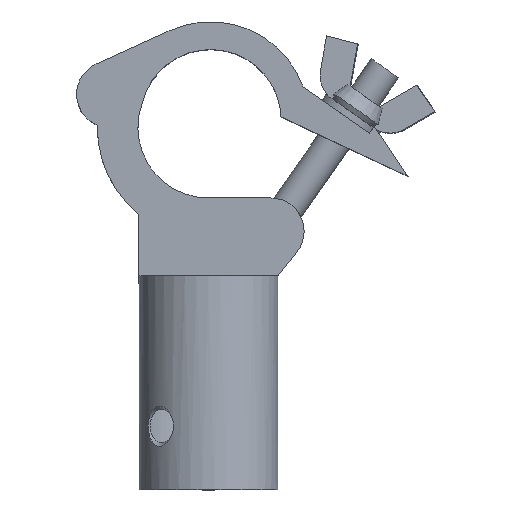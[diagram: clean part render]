
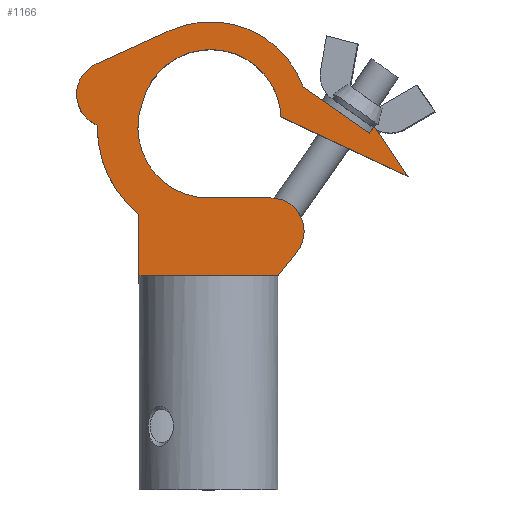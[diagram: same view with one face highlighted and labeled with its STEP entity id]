
A CAD part, top view. The second image highlights one B-rep face of the part: STEP entity #1166.
In plain terms, the highlighted planar face has unit normal (0, 0, 1).
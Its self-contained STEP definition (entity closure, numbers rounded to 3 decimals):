
#50=LINE('',#1706,#151);
#53=LINE('',#1711,#154);
#75=LINE('',#1778,#176);
#81=LINE('',#1789,#182);
#120=LINE('',#1979,#221);
#125=LINE('',#1990,#226);
#128=LINE('',#1994,#229);
#139=LINE('',#2031,#240);
#141=LINE('',#2035,#242);
#144=LINE('',#2045,#245);
#151=VECTOR('',#1326,10.);
#154=VECTOR('',#1331,10.);
#176=VECTOR('',#1389,10.);
#182=VECTOR('',#1397,10.);
#221=VECTOR('',#1514,10.);
#226=VECTOR('',#1523,10.);
#229=VECTOR('',#1528,10.);
#240=VECTOR('',#1571,10.);
#242=VECTOR('',#1575,10.);
#245=VECTOR('',#1588,10.);
#315=FACE_OUTER_BOUND('',#377,.T.);
#377=EDGE_LOOP('',(#984,#985,#986,#987,#988,#989,#990,#991,#992,#993,#994,
#995,#996,#997,#998,#999,#1000));
#412=CIRCLE('',#1260,25.4);
#413=CIRCLE('',#1270,35.4);
#420=CIRCLE('',#1279,12.);
#421=CIRCLE('',#1283,12.);
#422=CIRCLE('',#1285,40.);
#423=CIRCLE('',#1287,12.);
#424=CIRCLE('',#1288,25.4);
#428=VERTEX_POINT('',#1607);
#437=VERTEX_POINT('',#1705);
#438=VERTEX_POINT('',#1709);
#464=VERTEX_POINT('',#1775);
#465=VERTEX_POINT('',#1777);
#469=VERTEX_POINT('',#1787);
#504=VERTEX_POINT('',#1967);
#505=VERTEX_POINT('',#1969);
#508=VERTEX_POINT('',#1976);
#509=VERTEX_POINT('',#1978);
#513=VERTEX_POINT('',#1988);
#521=VERTEX_POINT('',#2023);
#522=VERTEX_POINT('',#2027);
#523=VERTEX_POINT('',#2029);
#524=VERTEX_POINT('',#2033);
#525=VERTEX_POINT('',#2037);
#526=VERTEX_POINT('',#2041);
#544=EDGE_CURVE('',#437,#428,#50,.T.);
#547=EDGE_CURVE('',#428,#438,#53,.T.);
#580=EDGE_CURVE('',#465,#464,#75,.T.);
#586=EDGE_CURVE('',#464,#469,#81,.T.);
#648=EDGE_CURVE('',#505,#504,#412,.T.);
#652=EDGE_CURVE('',#508,#509,#120,.T.);
#658=EDGE_CURVE('',#504,#513,#125,.T.);
#661=EDGE_CURVE('',#513,#465,#128,.T.);
#666=EDGE_CURVE('',#469,#509,#413,.T.);
#676=EDGE_CURVE('',#521,#505,#420,.T.);
#680=EDGE_CURVE('',#522,#523,#139,.T.);
#682=EDGE_CURVE('',#438,#524,#141,.T.);
#684=EDGE_CURVE('',#508,#525,#421,.T.);
#686=EDGE_CURVE('',#525,#526,#422,.T.);
#687=EDGE_CURVE('',#526,#437,#144,.T.);
#688=EDGE_CURVE('',#524,#522,#423,.T.);
#689=EDGE_CURVE('',#523,#521,#424,.T.);
#984=ORIENTED_EDGE('',*,*,#686,.T.);
#985=ORIENTED_EDGE('',*,*,#687,.T.);
#986=ORIENTED_EDGE('',*,*,#544,.T.);
#987=ORIENTED_EDGE('',*,*,#547,.T.);
#988=ORIENTED_EDGE('',*,*,#682,.T.);
#989=ORIENTED_EDGE('',*,*,#688,.T.);
#990=ORIENTED_EDGE('',*,*,#680,.T.);
#991=ORIENTED_EDGE('',*,*,#689,.T.);
#992=ORIENTED_EDGE('',*,*,#676,.T.);
#993=ORIENTED_EDGE('',*,*,#648,.T.);
#994=ORIENTED_EDGE('',*,*,#658,.T.);
#995=ORIENTED_EDGE('',*,*,#661,.T.);
#996=ORIENTED_EDGE('',*,*,#580,.T.);
#997=ORIENTED_EDGE('',*,*,#586,.T.);
#998=ORIENTED_EDGE('',*,*,#666,.T.);
#999=ORIENTED_EDGE('',*,*,#652,.F.);
#1000=ORIENTED_EDGE('',*,*,#684,.T.);
#1051=PLANE('',#1286);
#1166=ADVANCED_FACE('',(#315),#1051,.T.);
#1260=AXIS2_PLACEMENT_3D('',#1970,#1507,#1508);
#1270=AXIS2_PLACEMENT_3D('',#2005,#1543,#1544);
#1279=AXIS2_PLACEMENT_3D('',#2024,#1564,#1565);
#1283=AXIS2_PLACEMENT_3D('',#2039,#1579,#1580);
#1285=AXIS2_PLACEMENT_3D('',#2043,#1584,#1585);
#1286=AXIS2_PLACEMENT_3D('',#2044,#1586,#1587);
#1287=AXIS2_PLACEMENT_3D('',#2046,#1589,#1590);
#1288=AXIS2_PLACEMENT_3D('',#2047,#1591,#1592);
#1326=DIRECTION('',(1.,0.,0.));
#1331=DIRECTION('',(1.,0.,0.));
#1389=DIRECTION('',(-0.574,-0.819,0.));
#1397=DIRECTION('',(-0.819,0.574,0.));
#1507=DIRECTION('center_axis',(0.,0.,
-1.));
#1508=DIRECTION('ref_axis',(-0.999,-0.043,0.));
#1514=DIRECTION('',(0.911,0.413,0.));
#1523=DIRECTION('',(0.906,-0.423,0.));
#1528=DIRECTION('',(-0.559,0.829,0.));
#1543=DIRECTION('center_axis',(0.,0.,
1.));
#1544=DIRECTION('ref_axis',(0.942,0.336,0.));
#1564=DIRECTION('center_axis',(0.,0.,1.));
#1565=DIRECTION('ref_axis',(0.948,-0.318,0.));
#1571=DIRECTION('',(-1.,0.,0.));
#1575=DIRECTION('',(0.624,0.781,0.));
#1579=DIRECTION('center_axis',(0.,0.,1.));
#1580=DIRECTION('ref_axis',(0.948,-0.318,0.));
#1584=DIRECTION('center_axis',(0.,0.,1.));
#1585=DIRECTION('ref_axis',(-0.999,-0.049,0.));
#1586=DIRECTION('center_axis',(0.,0.,1.));
#1587=DIRECTION('ref_axis',(1.,0.,0.));
#1588=DIRECTION('',(0.,-1.,0.));
#1589=DIRECTION('center_axis',(0.,0.,1.));
#1590=DIRECTION('ref_axis',(0.781,-0.624,0.));
#1591=DIRECTION('center_axis',(0.,0.,-1.));
#1592=DIRECTION('ref_axis',(0.948,-0.318,0.));
#1607=CARTESIAN_POINT('',(0.,0.,25.));
#1705=CARTESIAN_POINT('',(-25.,0.,25.));
#1706=CARTESIAN_POINT('',(-25.,0.,25.));
#1709=CARTESIAN_POINT('',(25.,0.,25.));
#1711=CARTESIAN_POINT('',(-25.,0.,25.));
#1775=CARTESIAN_POINT('',(57.872,51.27,25.));
#1777=CARTESIAN_POINT('',(59.67,53.838,25.));
#1778=CARTESIAN_POINT('',(59.67,53.838,25.));
#1787=CARTESIAN_POINT('',(34.116,67.904,25.));
#1789=CARTESIAN_POINT('',(57.872,51.27,25.));
#1967=CARTESIAN_POINT('',(26.146,57.126,25.));
#1969=CARTESIAN_POINT('',(-23.81,62.422,25.));
#1970=CARTESIAN_POINT('Origin',(0.77,56.021,25.));
#1976=CARTESIAN_POINT('',(-40.411,76.231,25.));
#1978=CARTESIAN_POINT('',(-13.835,88.268,25.));
#1979=CARTESIAN_POINT('',(-6.29,91.685,25.));
#1988=CARTESIAN_POINT('',(71.817,35.829,25.));
#1990=CARTESIAN_POINT('',(26.146,57.126,25.));
#1994=CARTESIAN_POINT('',(71.817,35.829,25.));
#2005=CARTESIAN_POINT('Origin',(0.77,56.021,25.));
#2023=CARTESIAN_POINT('',(-24.084,61.482,25.));
#2024=CARTESIAN_POINT('Origin',(-35.46,65.3,25.));
#2027=CARTESIAN_POINT('',(22.42,28.,25.));
#2029=CARTESIAN_POINT('',(-0.004,28.,25.));
#2031=CARTESIAN_POINT('',(22.42,28.,25.));
#2033=CARTESIAN_POINT('',(31.797,8.512,25.));
#2035=CARTESIAN_POINT('',(25.,0.,25.));
#2037=CARTESIAN_POINT('',(-39.996,54.19,25.));
#2039=CARTESIAN_POINT('Origin',(-35.46,65.3,25.));
#2041=CARTESIAN_POINT('',(-25.,22.172,25.));
#2043=CARTESIAN_POINT('Origin',(-0.004,53.4,25.));
#2044=CARTESIAN_POINT('Origin',(-10.777,28.921,25.));
#2045=CARTESIAN_POINT('',(-25.,19.856,25.));
#2046=CARTESIAN_POINT('Origin',(22.42,16.,25.));
#2047=CARTESIAN_POINT('Origin',(-0.004,53.4,25.));
